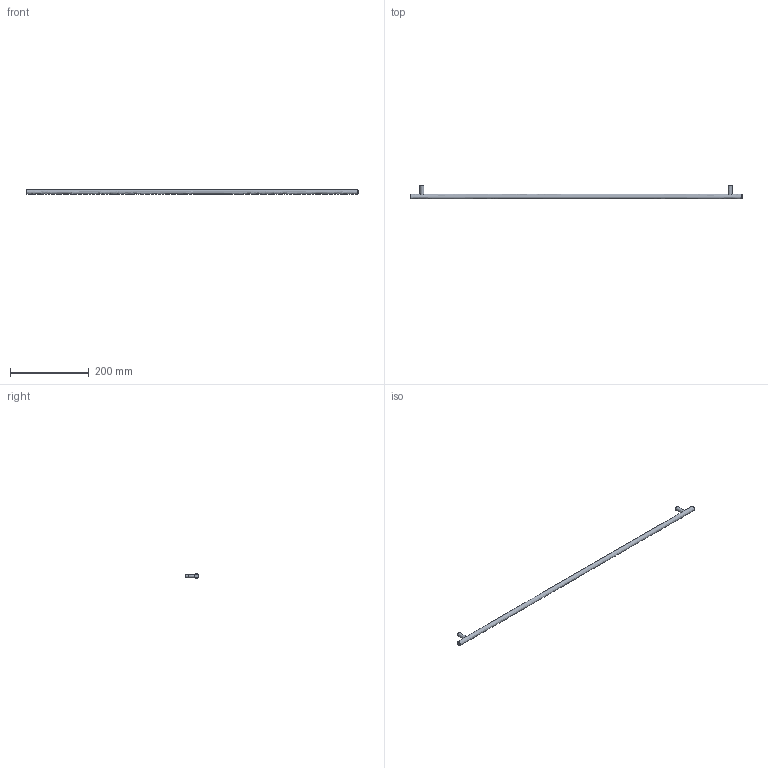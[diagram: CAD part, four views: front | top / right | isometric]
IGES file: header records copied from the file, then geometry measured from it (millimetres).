
Start section: Data from Parasolid IGES Translator 15.0.47, Copyright(c) 2006 Siemens P LM Software. All Rights Reserved.
Global section: file name: 9070743.igs; native system:  By UGS Corp.; preprocessor: XPlus GENERIC/IGES 3.0; author: Noname; organization: Noname; date: 20140123.103937; units: millimetre
Bounding box: 844 x 35 x 12 mm (x, y, z)
Surface area: 33715.8 mm2 (no closed solid volume)
Topology: 0 solids, 0 shells, 13 faces, 42 edges, 34 vertices
Faces by surface type: revolution 7, extrusion 6
